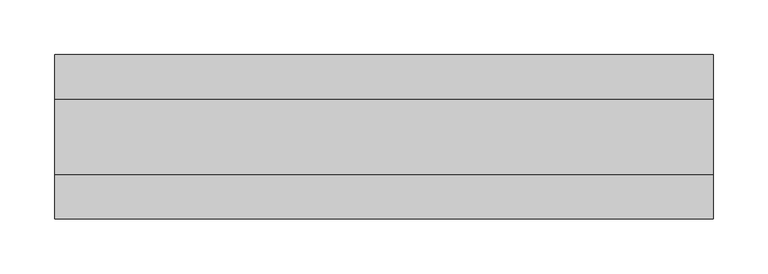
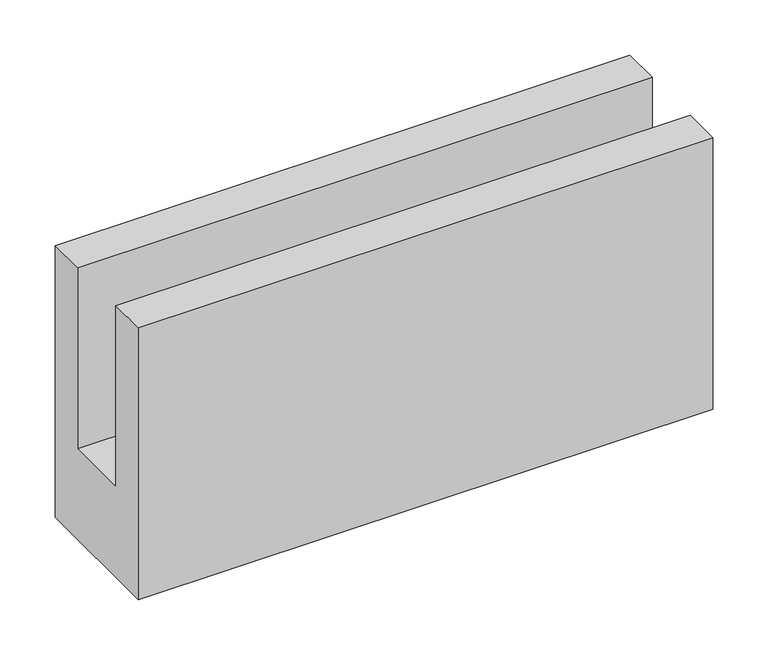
"""IFC4 building model written with IfcOpenShell, lengths in millimetres: proxy geometry, Módulo U de Concreto Celular - Celucon : MUCC 15x30x60cm (L x A x C)."""

import ifcopenshell
import ifcopenshell.guid

model = None  # the IFC model being written
_history = None  # IfcOwnerHistory: only IFC2X3 demands one
_inside = {}  # id of a spatial element -> (the spatial element, [elements in it])
_under = {}  # id of a project, library or spatial element -> (it, [spatial elements below it])
_declared = {}  # id of a project -> (the project, [libraries it declares])
_typed = {}  # id of a type object -> (the type object, [elements of that type])
_made_of = {}  # id of a material, layer set ... -> (it, [elements and type objects made of it])


def new_model(schema):
    """Start an empty IFC model of exactly this schema.

    Asked for "IFC4X3", IfcOpenShell would pick the latest addendum, in which some entities
    have other attributes; the version numbers below select the first issue.
    IFC2X3 requires an IfcOwnerHistory on every rooted entity: one is made here for all.
    """
    global model, _history
    if schema == "IFC4X3":
        model = ifcopenshell.file(schema_version=(4, 3, 0, 0))
    else:
        model = ifcopenshell.file(schema=schema)
    _inside.clear()
    _under.clear()
    _declared.clear()
    _typed.clear()
    _made_of.clear()
    _history = None
    if model.schema == "IFC2X3":
        org = make("IfcOrganization", Name="unknown")
        user = make(
            "IfcPersonAndOrganization",
            ThePerson=make("IfcPerson", FamilyName="unknown"),
            TheOrganization=org,
        )
        app = make(
            "IfcApplication",
            ApplicationDeveloper=org,
            Version="unknown",
            ApplicationFullName="unknown",
            ApplicationIdentifier="unknown",
        )
        _history = make(
            "IfcOwnerHistory",
            OwningUser=user,
            OwningApplication=app,
            ChangeAction="ADDED",
            CreationDate=0,
        )
    return model


def make(cls, **values):
    """One entity of the class cls with the attributes given. An attribute that is None is left unset."""
    return model.create_entity(
        cls, **{name: value for name, value in values.items() if value is not None}
    )


def rooted(cls, **values):
    """An entity with a GlobalId (a new one), such as an element, a storey or a relation."""
    return make(cls, GlobalId=ifcopenshell.guid.new(), OwnerHistory=_history, **values)


def si_unit(unit_type, name, prefix=None):
    """IfcSIUnit, for example si_unit("LENGTHUNIT", "METRE", prefix="MILLI")."""
    return make("IfcSIUnit", UnitType=unit_type, Prefix=prefix, Name=name)


def assignment(units):
    """IfcUnitAssignment: the units of a project."""
    return None if units is None else make("IfcUnitAssignment", Units=units)


def point(xyz):
    """IfcCartesianPoint."""
    return None if xyz is None else make("IfcCartesianPoint", Coordinates=xyz)


def direction(xyz):
    """IfcDirection."""
    return None if xyz is None else make("IfcDirection", DirectionRatios=xyz)


def frame(location, z_axis=None, x_axis=None):
    """IfcAxis2Placement3D, a coordinate frame: its origin and axes. An axis left out is left unset."""
    return make(
        "IfcAxis2Placement3D",
        Location=point(location),
        Axis=direction(z_axis),
        RefDirection=direction(x_axis),
    )


def origin():
    """The frame at (0, 0, 0) with its axes left unset."""
    return frame((0.0, 0.0, 0.0))


def place(relative_to, where):
    """IfcLocalPlacement: puts the frame where relative to a parent placement (None: the world)."""
    return make(
        "IfcLocalPlacement", PlacementRelTo=relative_to, RelativePlacement=where
    )


def context(
    kind, dimensions, precision=None, world=None, true_north=None, identifier=None
):
    """IfcGeometricRepresentationContext, for example the 3D "Model" context."""
    return make(
        "IfcGeometricRepresentationContext",
        ContextIdentifier=identifier,
        ContextType=kind,
        CoordinateSpaceDimension=dimensions,
        Precision=precision,
        WorldCoordinateSystem=world,
        TrueNorth=true_north,
    )


def project(units=None, contexts=None):
    """IfcProject with its units and contexts."""
    return rooted(
        "IfcProject",
        Name="project",
        RepresentationContexts=contexts,
        UnitsInContext=assignment(units),
    )


def spatial(cls, under=None, at=None, **own):
    """A site, building, storey or space (cls), placed at a placement, below another one or the project."""
    s = rooted(cls, ObjectPlacement=at, **own)
    if under is not None:
        _under.setdefault(under.id(), (under, []))[1].append(s)
    return s


def polyline(points):
    """IfcPolyline through the points."""
    return make("IfcPolyline", Points=[point(p) for p in points])


def outline(outer, holes=None, kind="AREA"):
    """IfcArbitraryClosedProfileDef: a profile drawn as a closed curve; with holes, ...WithVoids."""
    if holes is None:
        return make("IfcArbitraryClosedProfileDef", ProfileType=kind, OuterCurve=outer)
    return make(
        "IfcArbitraryProfileDefWithVoids",
        ProfileType=kind,
        OuterCurve=outer,
        InnerCurves=holes,
    )


def extrude(swept, where, along, depth):
    """IfcExtrudedAreaSolid: the profile swept, set in the frame where, extruded along a direction by depth."""
    return make(
        "IfcExtrudedAreaSolid",
        SweptArea=swept,
        Position=where,
        ExtrudedDirection=direction(along),
        Depth=depth,
    )


def shape(context_of_items, identifier, shape_type, items):
    """IfcShapeRepresentation: the items that make up one representation, for example the "Body"."""
    return make(
        "IfcShapeRepresentation",
        ContextOfItems=context_of_items,
        RepresentationIdentifier=identifier,
        RepresentationType=shape_type,
        Items=items,
    )


def source(mapping_origin, context_of_items, identifier, shape_type, items):
    """IfcRepresentationMap: a shape defined once, which mapped items show again and again."""
    return make(
        "IfcRepresentationMap",
        MappingOrigin=mapping_origin,
        MappedRepresentation=shape(context_of_items, identifier, shape_type, items),
    )


def transform(
    local_origin,
    x_axis=None,
    y_axis=None,
    z_axis=None,
    scale=None,
    scale2=None,
    scale3=None,
    uniform=True,
):
    """IfcCartesianTransformationOperator3D, or its non-uniform kind. x_axis, y_axis, z_axis: its Axis1, 2, 3."""
    if uniform:
        return make(
            "IfcCartesianTransformationOperator3D",
            Axis1=direction(x_axis),
            Axis2=direction(y_axis),
            LocalOrigin=point(local_origin),
            Scale=scale,
            Axis3=direction(z_axis),
        )
    return make(
        "IfcCartesianTransformationOperator3DnonUniform",
        Axis1=direction(x_axis),
        Axis2=direction(y_axis),
        LocalOrigin=point(local_origin),
        Scale=scale,
        Axis3=direction(z_axis),
        Scale2=scale2,
        Scale3=scale3,
    )


def mapped(mapping_source, mapping_target):
    """IfcMappedItem: shows the shape of a source again, moved by a transform."""
    return make(
        "IfcMappedItem", MappingSource=mapping_source, MappingTarget=mapping_target
    )


def made_of(thing, what):
    """Note that an element or type object is made of a material, layer set ...; save() writes the relation."""
    if what is not None:
        _made_of.setdefault(what.id(), (what, []))[1].append(thing)
    return thing


def element(
    cls,
    number,
    at=None,
    inside=None,
    cuts=None,
    type_object=None,
    material=None,
    context=None,
    identifier="Body",
    shape_type=None,
    held_by="IfcProductDefinitionShape",
    body=None,
    shapes=None,
    **own,
):
    """One element of the class cls, such as IfcWall. Its Tag is "e" and its number.

    at: its placement. inside: the storey or other place that contains it. cuts: it is an
    opening in that element (IfcRelVoidsElement). A single representation is given by context,
    identifier, shape_type and body (its items); several are given by shapes. held_by: the class
    of the entity that holds the representations. save() writes the other relations.
    """
    e = rooted(cls, Tag="e%d" % number, ObjectPlacement=at, **own)
    if body is not None:
        shapes = [shape(context, identifier, shape_type, body)]
    if shapes is not None:
        e.Representation = make(held_by, Representations=shapes)
    if inside is not None:
        _inside.setdefault(inside.id(), (inside, []))[1].append(e)
    if cuts is not None:
        rooted(
            "IfcRelVoidsElement", RelatingBuildingElement=cuts, RelatedOpeningElement=e
        )
    if type_object is not None:
        _typed.setdefault(type_object.id(), (type_object, []))[1].append(e)
    return made_of(e, material)


def aggregate(whole, parts):
    """IfcRelAggregates: a whole, such as a stair, and the parts it consists of."""
    return rooted("IfcRelAggregates", RelatingObject=whole, RelatedObjects=parts)


def save(model, path):
    """Write the relations noted so far, then the file.

    IfcRelAggregates (storeys below a building ...), IfcRelContainedInSpatialStructure (elements
    in a storey), IfcRelDefinesByType, IfcRelAssociatesMaterial and IfcRelDeclares: one each for
    every whole, place, type object, material and project.
    """
    for whole, parts in _under.values():
        aggregate(whole, parts)
    for where, things in _inside.values():
        rooted(
            "IfcRelContainedInSpatialStructure",
            RelatedElements=things,
            RelatingStructure=where,
        )
    for kind, things in _typed.values():
        rooted("IfcRelDefinesByType", RelatedObjects=things, RelatingType=kind)
    for what, things in _made_of.values():
        rooted("IfcRelAssociatesMaterial", RelatedObjects=things, RelatingMaterial=what)
    for by, libraries in _declared.values():
        rooted("IfcRelDeclares", RelatingContext=by, RelatedDefinitions=libraries)
    model.write(path)


def generic_models_a6b36ca9(model_context):
    return source(origin(), model_context, "Body", "SweptSolid", [
        extrude(outline(polyline([(75.0, 0.0), (-75.0, 0.0), (-75.0, 300.0), (-34.6, 300.0), (-34.6, 100.0), (34.6, 100.0), (34.6, 300.0), (75.0, 300.0), (75.0, 0.0)])), frame((-300.0, 0.0, 0.0), z_axis=(1.0, 0.0, 0.0), x_axis=(0.0, 1.0, 0.0)), (0.0, 0.0, 1.0), 600.0),
    ])


if __name__ == "__main__":
    model = new_model("IFC4")
    model_context = context("Model", 3, world=origin())
    ifc_project = project(units=[si_unit("LENGTHUNIT", "METRE", prefix="MILLI")], contexts=[model_context])
    site = spatial("IfcSite", under=ifc_project)
    building = spatial("IfcBuilding", under=site)
    placement = place(None, origin())
    generic_models_shape = generic_models_a6b36ca9(model_context)
    element("IfcBuildingElementProxy", 1, Name="Módulo U de Concreto Celular - Celucon : MUCC 15x30x60cm (L x A x C)", ObjectType="Módulo U de Concreto Celular - Celucon : MUCC 15x30x60cm (L x A x C)", at=placement, inside=building, context=model_context, shape_type="MappedRepresentation", body=[
        mapped(generic_models_shape, transform((0.0, 0.0, 0.0), x_axis=(1.0, 0.0, 0.0), y_axis=(0.0, 1.0, 0.0), z_axis=(0.0, 0.0, 1.0))),
    ])
    save(model, "model.ifc")
